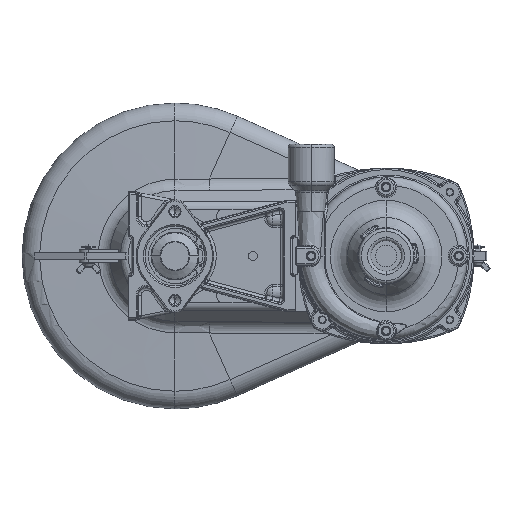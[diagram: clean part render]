
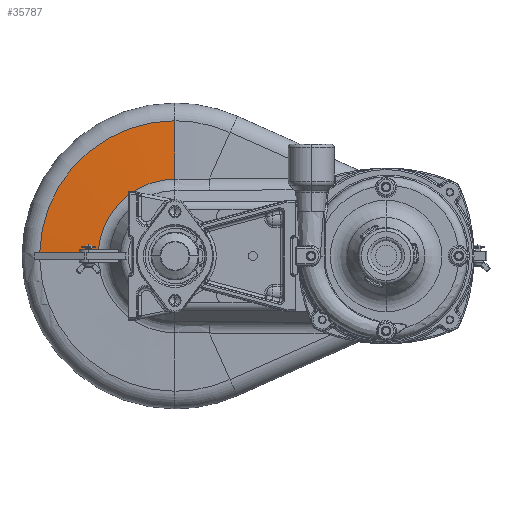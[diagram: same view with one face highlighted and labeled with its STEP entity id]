
A CAD part, left-side view. The second image highlights one B-rep face of the part: STEP entity #35787.
In plain terms, the highlighted conical face has half-angle 88 degrees and reference radius 158.75 mm.
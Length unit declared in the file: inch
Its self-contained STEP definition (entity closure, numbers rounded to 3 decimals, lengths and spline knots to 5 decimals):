
#8294 = FACE_OUTER_BOUND ( 'NONE', #38591, .T. ) ;
#8299 = CONICAL_SURFACE ( 'NONE', #132800, 6.25, 1.536 ) ;
#10779 = CARTESIAN_POINT ( 'NONE',  ( -4.22528, 0., 0. ) ) ;
#10780 = DIRECTION ( 'NONE',  ( 1., 0., 0. ) ) ;
#10781 = DIRECTION ( 'NONE',  ( 0., 0., -1. ) ) ;
#14114 = CARTESIAN_POINT ( 'NONE',  ( -4.30868, 0., 3.13776 ) ) ;
#14576 = CARTESIAN_POINT ( 'NONE',  ( -4.22528, 0., 5.52617 ) ) ;
#14683 = CARTESIAN_POINT ( 'NONE',  ( -4.28142, 3.91, 0.255 ) ) ;
#14780 = CARTESIAN_POINT ( 'NONE',  ( -4.30868, 3.12738, 0.255 ) ) ;
#14844 = CARTESIAN_POINT ( 'NONE',  ( -4.22528, 5.52465, 0.13 ) ) ;
#16493 = B_SPLINE_CURVE_WITH_KNOTS ( 'NONE', 3,
 ( #116935, #116934, #116945, #116946 ),
 .UNSPECIFIED., .F., .F.,
 ( 4, 4 ),
 ( 0.05054, 0.07044 ),
 .UNSPECIFIED. ) ;
#16903 = B_SPLINE_CURVE_WITH_KNOTS ( 'NONE', 3,
 ( #116891, #116894, #116905, #116907 ),
 .UNSPECIFIED., .F., .F.,
 ( 4, 4 ),
 ( 0.09937, 0.14041 ),
 .UNSPECIFIED. ) ;
#18144 = B_SPLINE_CURVE_WITH_KNOTS ( 'NONE', 3,
 ( #116890, #116914, #116923, #116925, #116927, #116929, #116931 ),
 .UNSPECIFIED., .F., .F.,
 ( 4, 3, 4 ),
 ( 0.00711, 0.00751, 0.01028 ),
 .UNSPECIFIED. ) ;
#27659 = EDGE_CURVE ( 'NONE', #77867, #78878, #37257, .T. ) ;
#27666 = EDGE_CURVE ( 'NONE', #77867, #78393, #37259, .T. ) ;
#27674 = EDGE_CURVE ( 'NONE', #45513, #79072, #16903, .T. ) ;
#27686 = EDGE_CURVE ( 'NONE', #78625, #45513, #18144, .T. ) ;
#27699 = EDGE_CURVE ( 'NONE', #78625, #78878, #16493, .T. ) ;
#33428 = AXIS2_PLACEMENT_3D ( 'NONE', #116884, #116886, #116888 ) ;
#35787 = ADVANCED_FACE ( 'NONE', ( #8294 ), #8299, .T. ) ;
#36152 = CIRCLE ( 'NONE', #135272, 5.52617 ) ;
#37257 = CIRCLE ( 'NONE', #33428, 3.13776 ) ;
#37259 = LINE ( 'NONE', #116839, #37261 ) ;
#37261 = VECTOR ( 'NONE', #116874, 39.37008 ) ;
#38591 = EDGE_LOOP ( 'NONE', ( #94429, #94432, #94434, #94436, #94438, #94440 ) ) ;
#38748 = DIRECTION ( 'NONE',  ( 0., 0., 1. ) ) ;
#38750 = DIRECTION ( 'NONE',  ( 1., 0., 0. ) ) ;
#38763 = CARTESIAN_POINT ( 'NONE',  ( -4.2, 0., 0. ) ) ;
#45513 = VERTEX_POINT ( 'NONE', #113053 ) ;
#72834 = EDGE_CURVE ( 'NONE', #79072, #78393, #36152, .T. ) ;
#77867 = VERTEX_POINT ( 'NONE', #14114 ) ;
#78393 = VERTEX_POINT ( 'NONE', #14576 ) ;
#78625 = VERTEX_POINT ( 'NONE', #14683 ) ;
#78878 = VERTEX_POINT ( 'NONE', #14780 ) ;
#79072 = VERTEX_POINT ( 'NONE', #14844 ) ;
#94429 = ORIENTED_EDGE ( 'NONE', *, *, #27659, .F. ) ;
#94432 = ORIENTED_EDGE ( 'NONE', *, *, #27666, .T. ) ;
#94434 = ORIENTED_EDGE ( 'NONE', *, *, #72834, .F. ) ;
#94436 = ORIENTED_EDGE ( 'NONE', *, *, #27674, .F. ) ;
#94438 = ORIENTED_EDGE ( 'NONE', *, *, #27686, .F. ) ;
#94440 = ORIENTED_EDGE ( 'NONE', *, *, #27699, .T. ) ;
#113053 = CARTESIAN_POINT ( 'NONE',  ( -4.28164, 3.91, 0.13 ) ) ;
#116839 = CARTESIAN_POINT ( 'NONE',  ( -4.2, 0., 6.25 ) ) ;
#116874 = DIRECTION ( 'NONE',  ( 0.035, 0., 0.999 ) ) ;
#116884 = CARTESIAN_POINT ( 'NONE',  ( -4.30868, 0., 0. ) ) ;
#116886 = DIRECTION ( 'NONE',  ( -1., 0., 0. ) ) ;
#116888 = DIRECTION ( 'NONE',  ( 0., 0., 1. ) ) ;
#116890 = CARTESIAN_POINT ( 'NONE',  ( -4.28142, 3.91, 0.255 ) ) ;
#116891 = CARTESIAN_POINT ( 'NONE',  ( -4.28164, 3.91, 0.13 ) ) ;
#116894 = CARTESIAN_POINT ( 'NONE',  ( -4.26285, 4.44822, 0.13 ) ) ;
#116905 = CARTESIAN_POINT ( 'NONE',  ( -4.24407, 4.98643, 0.13 ) ) ;
#116907 = CARTESIAN_POINT ( 'NONE',  ( -4.22528, 5.52465, 0.13 ) ) ;
#116914 = CARTESIAN_POINT ( 'NONE',  ( -4.28144, 3.91, 0.24978 ) ) ;
#116923 = CARTESIAN_POINT ( 'NONE',  ( -4.28145, 3.91, 0.24457 ) ) ;
#116925 = CARTESIAN_POINT ( 'NONE',  ( -4.28146, 3.91, 0.23935 ) ) ;
#116927 = CARTESIAN_POINT ( 'NONE',  ( -4.28154, 3.91, 0.2029 ) ) ;
#116929 = CARTESIAN_POINT ( 'NONE',  ( -4.2816, 3.91, 0.16645 ) ) ;
#116931 = CARTESIAN_POINT ( 'NONE',  ( -4.28164, 3.91, 0.13 ) ) ;
#116934 = CARTESIAN_POINT ( 'NONE',  ( -4.29052, 3.64913, 0.255 ) ) ;
#116935 = CARTESIAN_POINT ( 'NONE',  ( -4.28142, 3.91, 0.255 ) ) ;
#116945 = CARTESIAN_POINT ( 'NONE',  ( -4.2996, 3.38825, 0.255 ) ) ;
#116946 = CARTESIAN_POINT ( 'NONE',  ( -4.30868, 3.12738, 0.255 ) ) ;
#132800 = AXIS2_PLACEMENT_3D ( 'NONE', #38763, #38750, #38748 ) ;
#135272 = AXIS2_PLACEMENT_3D ( 'NONE', #10779, #10780, #10781 ) ;
